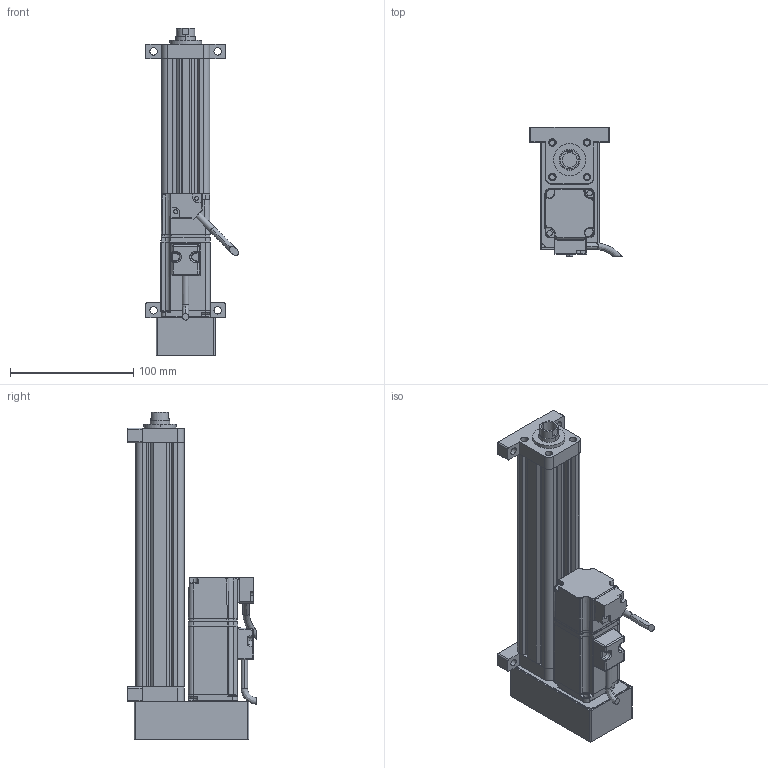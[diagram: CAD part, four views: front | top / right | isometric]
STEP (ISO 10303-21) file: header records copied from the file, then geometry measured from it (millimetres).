
FILE_DESCRIPTION (( 'STEP AP214' ), '1' );
FILE_NAME ('039-S150-D02-B-M2-C2-2.STEP', '2021-02-25T08:50:46', ( '' ), ( '' ), 'SwSTEP 2.0', 'SolidWorks 2018', '' );
FILE_SCHEMA (( 'AUTOMOTIVE_DESIGN' ));
Length unit declared in the file: millimetre
Products named in the file (8): CMC039-LJB; CMC039-GT; ECMA-CX0401ES-40框號系列機種-100W低慣量系列; 039-S150-D02-B-M2-C2-2; CMC039-HDB; CMC039-QDB; CMC039-XT; CMC039-DT
Assembly tree (7 placements, depth 2):
  039-S150-D02-B-M2-C2-2
    CMC039-GT
    CMC039-LJB
    CMC039-XT
    CMC039-DT
    ECMA-CX0401ES-40框號系列機種-100W低慣量系列
    CMC039-QDB
    CMC039-HDB
Bounding box: 75.34 x 104.89 x 266 mm (x, y, z)
Volume: 424136.8 mm3; surface area: 152484.2 mm2
Topology: 7 solids, 15 shells, 634 faces, 1654 edges, 1031 vertices
Faces by surface type: cylinder 260, plane 253, bspline 84, cone 37
Entity records: 25486 total; most frequent: CARTESIAN_POINT 10811, ORIENTED_EDGE 3242, DIRECTION 2571, EDGE_CURVE 1621, VERTEX_POINT 1031, AXIS2_PLACEMENT_3D 878, LINE 815, VECTOR 815
